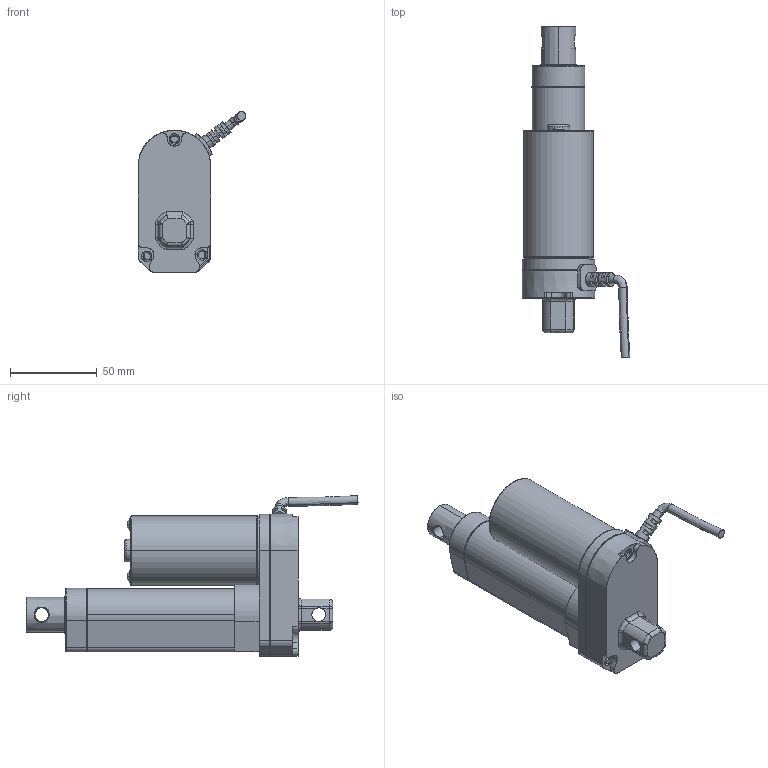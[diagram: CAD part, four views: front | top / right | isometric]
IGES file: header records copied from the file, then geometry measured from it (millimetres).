
Start section: SolidWorks IGES file using analytic representation for surfaces
Bounding box: 62.27 x 191.62 x 92.72 mm (x, y, z)
Surface area: 83205.6 mm2 (no closed solid volume)
Topology: 0 solids, 0 shells, 499 faces, 6934 edges, 6930 vertices
Faces by surface type: bspline 260, revolution 239
